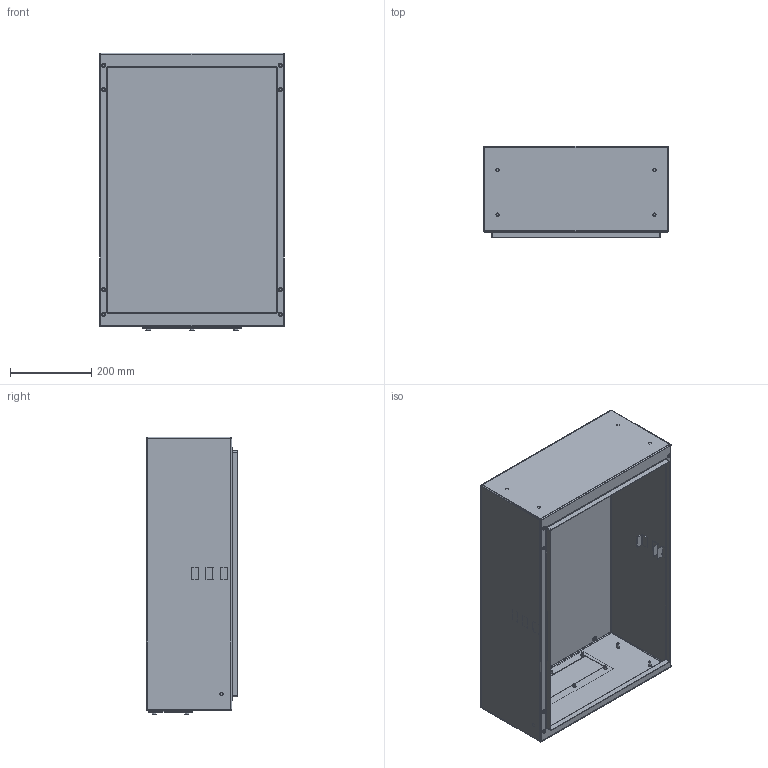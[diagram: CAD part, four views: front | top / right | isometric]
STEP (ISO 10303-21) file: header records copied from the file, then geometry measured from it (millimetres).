
FILE_DESCRIPTION(/* description */ (''),/* implementation_level */ '2;1');
FILE_NAME(/* name */ '4005048.stp',/* time_stamp */ '2019-03-01T17:10:55+01:00',/* author */ (''),/* organization */ (''),/* preprocessor_version */ 'ST-DEVELOPER v16.7',/* originating_system */ 'SIEMENS PLM Software NX 12.0',/* authorisation */ '');
FILE_SCHEMA (('AUTOMOTIVE_DESIGN { 1 0 10303 214 3 1 1 1 }'));
Length unit declared in the file: millimetre
Products named in the file (1): bsom23CC53FBq30t
Bounding box: 455 x 225 x 682.8 mm (x, y, z)
Volume: 1406640.3 mm3; surface area: 1803434.8 mm2
Topology: 21 solids, 21 shells, 449 faces, 978 edges, 606 vertices
Faces by surface type: plane 193, cylinder 146, cone 58, torus 36, sphere 16
Full cylindrical faces by diameter (mm): 5.795 x6, 6 x26, 6.4 x4, 6.5 x6, 7 x6, 7.2 x8, 8 x16, 8.4 x4, 10.2 x8, 12 x4, 14 x6
Entity records: 11320 total; most frequent: CARTESIAN_POINT 2098, DIRECTION 1940, ORIENTED_EDGE 1536, AXIS2_PLACEMENT_3D 830, EDGE_CURVE 768, EDGE_LOOP 714, VERTEX_POINT 556, FACE_BOUND 463
